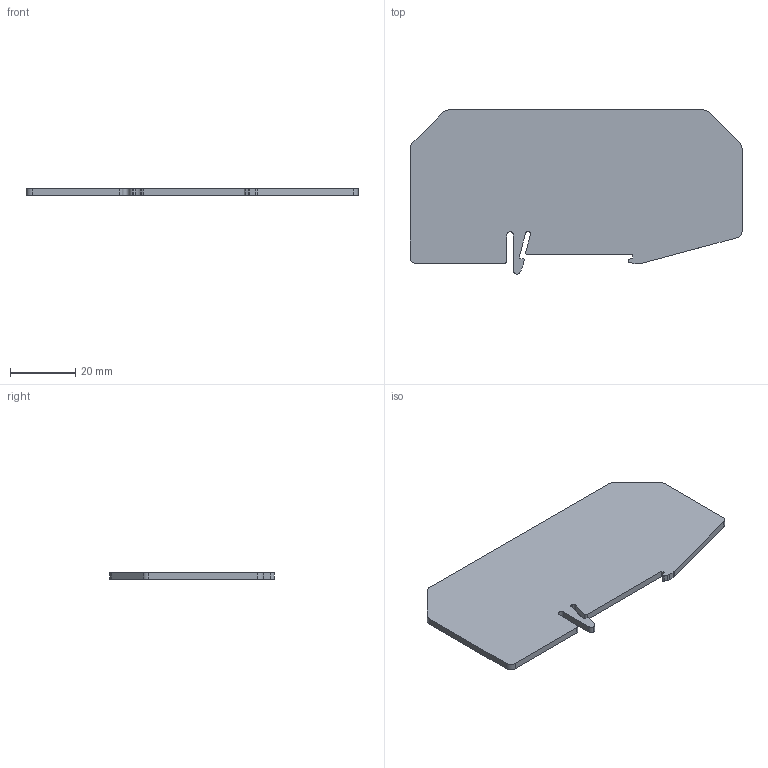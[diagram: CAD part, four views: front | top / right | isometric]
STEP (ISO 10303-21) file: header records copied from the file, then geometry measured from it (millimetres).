
FILE_DESCRIPTION(('OneSpaceDesigner STEP Export'),'2;1');
FILE_NAME('3206238_atp_qttcb_select.stp','2004-10-04T10:25:33',(''),(''),'OneSpace Designer STEP processor (Jan. 2003) for AP203(Solid Model)','OneSpace Designer 12.01C 26-Mar-2004 (C) CoCreate Software GmbH','');
FILE_SCHEMA(('CONFIG_CONTROL_DESIGN'));
Length unit declared in the file: millimetre
Products named in the file (2): 3206238_atp_qttcb_select
Assembly tree (1 placements, depth 2):
  3206238_atp_qttcb_select
    3206238_atp_qttcb_select
Bounding box: 101.95 x 50.4 x 2 mm (x, y, z)
Volume: 8886.7 mm3; surface area: 9532.1 mm2
Topology: 1 solids, 1 shells, 43 faces, 123 edges, 82 vertices
Faces by surface type: plane 23, cylinder 20
Entity records: 1594 total; most frequent: ORIENTED_EDGE 246, CARTESIAN_POINT 241, DIRECTION 235, EDGE_CURVE 123, VECTOR 83, LINE 83, VERTEX_POINT 82, AXIS2_PLACEMENT_3D 76
